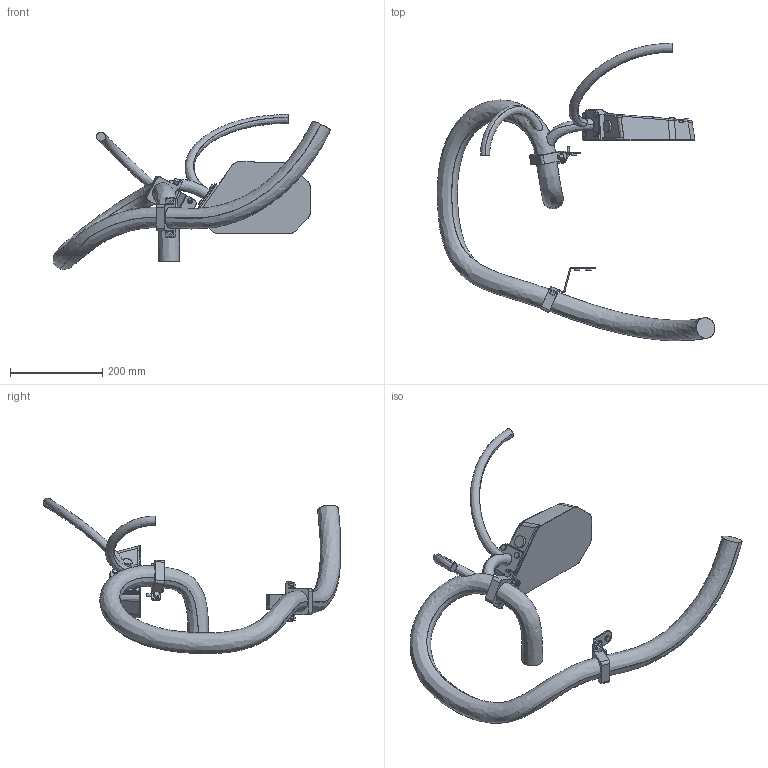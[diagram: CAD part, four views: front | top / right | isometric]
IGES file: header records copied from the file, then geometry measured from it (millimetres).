
Start section: SolidWorks IGES file using analytic representation for surfaces
Global section: file name: C:\Users\SEALDUN\OneDrive - ABB\Documents\R&D Robotics\Work Items\WI 632927 light weight hole removal\IGES\IRB5720-LID-MH_90kg-300_OC_03_IGES_J\IRB5720-LID_90kg-300_OmniCore_rev00_LINK01m_CABLE.igs; native system: SolidWorks 2024; preprocessor: SolidWorks 2024; author: SEALDUN; date: 250708.123054; units: millimetre
Bounding box: 602.81 x 645.74 x 336.94 mm (x, y, z)
Surface area: 377539.6 mm2 (no closed solid volume)
Topology: 0 solids, 0 shells, 428 faces, 6468 edges, 6468 vertices
Faces by surface type: bspline 281, revolution 147
